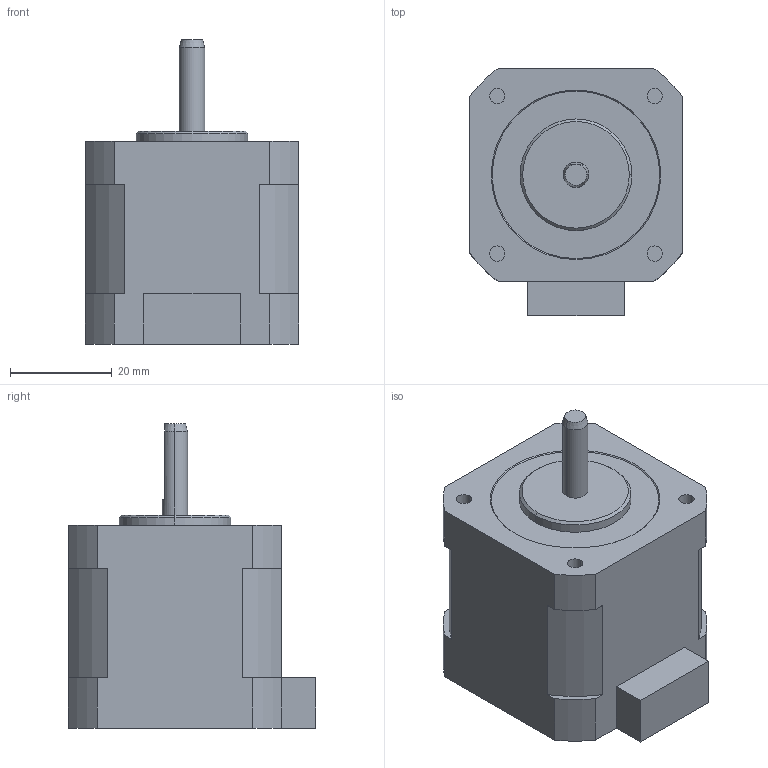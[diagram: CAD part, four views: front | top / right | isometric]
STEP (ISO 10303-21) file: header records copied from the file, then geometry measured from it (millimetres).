
FILE_DESCRIPTION (( 'STEP AP203' ), '1' );
FILE_NAME ('PMSA-U42D2_3D.STEP', '2017-01-31T04:29:21', ( 'user01' ), ( '' ), 'SwSTEP 2.0', 'SolidWorks 2014', '' );
FILE_SCHEMA (( 'CONFIG_CONTROL_DESIGN' ));
Length unit declared in the file: millimetre
Products named in the file (1): PMSA-U42D2_3D
Bounding box: 42 x 48.7 x 60 mm (x, y, z)
Volume: 69496.7 mm3; surface area: 10567.7 mm2
Topology: 1 solids, 1 shells, 58 faces, 143 edges, 94 vertices
Faces by surface type: plane 27, cylinder 24, cone 7
Entity records: 1821 total; most frequent: DIRECTION 318, CARTESIAN_POINT 310, ORIENTED_EDGE 286, EDGE_CURVE 143, AXIS2_PLACEMENT_3D 118, VERTEX_POINT 94, VECTOR 82, LINE 82
